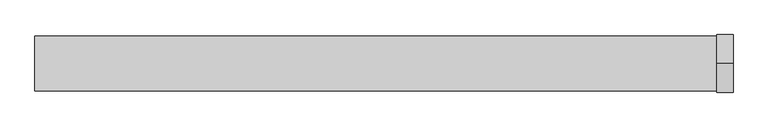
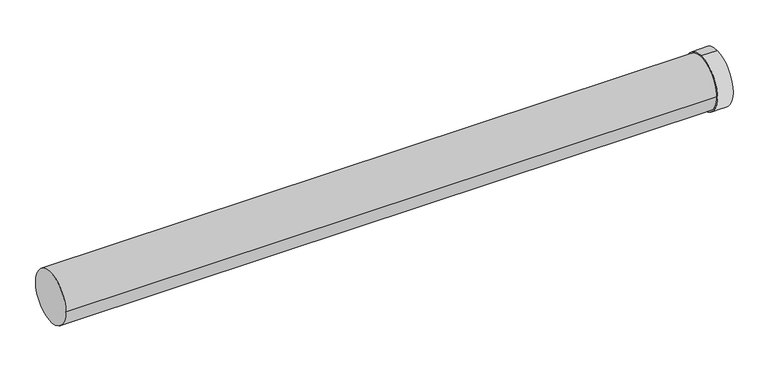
"""IFC4 building model written with IfcOpenShell, lengths in millimetres: duct fitting geometry, RSFen_DUF_UN_Twinline Extension_M&G : ø130-150-200."""

from ifc_helpers import new_model, si_unit, point, frame, origin, origin_2d, place, context, project, spatial, polyline, circle_curve, trimmed, segment, composite_curve, outline, extrude, source, transform, mapped, element, save
from ifc_brep_helpers import plane_surface, cylinder_surface, revolved_surface, advanced_brep


def duct_fitting_ad141df4(model_context):
    return source(origin(), model_context, "Body", "SolidModel", [
        advanced_brep(
        [(1909.9999881, 0.0, -79.0), (1909.9999881, 0.0, 79.0), (1909.9999881, 0.0, 75.5), (1909.9999881, 0.0, -75.5), (1864.9999881, 0.0, -79.0), (1864.9999881, 0.0, 79.0), (1869.9999881, 0.0, -75.5), (1869.9999881, 0.0, 75.5)],
        [
            (0, 1, circle_curve(frame((1909.9999881, 0.0, 0.0), z_axis=(1.0, 0.0, 0.0), x_axis=(0.0, 0.0, 1.0)), 79.0)),
            (1, 0, circle_curve(frame((1909.9999881, 0.0, 0.0), z_axis=(1.0, 0.0, 0.0), x_axis=(0.0, 0.0, 1.0)), 79.0)),
            (2, 3, circle_curve(frame((1909.9999881, 0.0, 0.0), z_axis=(-1.0, 0.0, 0.0), x_axis=(0.0, 0.0, 1.0)), 75.5)),
            (3, 2, circle_curve(frame((1909.9999881, 0.0, 0.0), z_axis=(-1.0, 0.0, 0.0), x_axis=(0.0, 0.0, 1.0)), 75.5)),
            (4, 5, circle_curve(frame((1864.9999881, 0.0, 0.0), z_axis=(-1.0, 0.0, 0.0), x_axis=(0.0, 0.0, 1.0)), 79.0)),
            (5, 4, circle_curve(frame((1864.9999881, 0.0, 0.0), z_axis=(-1.0, 0.0, 0.0), x_axis=(0.0, 0.0, 1.0)), 79.0)),
            (1, 5),
            (4, 0),
            (6, 7, circle_curve(frame((1869.9999881, 0.0, 0.0), z_axis=(1.0, 0.0, 0.0), x_axis=(0.0, 0.0, 1.0)), 75.5)),
            (7, 6, circle_curve(frame((1869.9999881, 0.0, 0.0), z_axis=(1.0, 0.0, 0.0), x_axis=(0.0, 0.0, 1.0)), 75.5)),
            (7, 2),
            (3, 6),
        ],
        [
            plane_surface(frame((1909.9999881, 0.0, 79.0), z_axis=(1.0, 0.0, 0.0), x_axis=(0.0, 1.0, 0.0))),
            plane_surface(frame((1864.9999881, 0.0, 79.0), z_axis=(-1.0, 0.0, 0.0), x_axis=(0.0, -1.0, 0.0))),
            cylinder_surface(frame((1864.9999881, 0.0, 0.0), z_axis=(1.0, 0.0, 0.0), x_axis=(0.0, 0.0, 1.0)), 79.0),
            plane_surface(frame((1869.9999881, 0.0, 75.5), z_axis=(1.0, 0.0, 0.0), x_axis=(0.0, -1.0, 0.0))),
            revolved_surface(polyline([(1909.9999881, 0.0, 75.5), (1869.9999881, 0.0, 75.5)]), (1869.9999881, 0.0, 0.0), (1.0, 0.0, 0.0)),
        ],
        [
            (0, [[1, 2], [3, 4]]),
            (1, [[5, 6]]),
            (2, [[7, -5, 8, -2]]),
            (2, [[-8, -6, -7, -1]]),
            (3, [[9, 10]]),
            (4, [[11, -4, 12, -10]]),
            (4, [[-12, -3, -11, -9]]),
        ],
    ),
        extrude(outline(composite_curve([segment(trimmed(circle_curve(origin_2d(), 75.0), [point((-75.0, 0.0))], [point((75.0, 0.0))], False, "CARTESIAN"), True, "CONTINUOUS"), segment(trimmed(circle_curve(origin_2d(), 75.0), [point((75.0, 0.0))], [point((-75.0, 0.0))], False, "CARTESIAN"), True, "CONTINUOUS")], self_intersect=False)), frame((-2.39e-05, 0.0, 0.0), z_axis=(1.0, 0.0, 0.0), x_axis=(0.0, 1.0, 0.0)), (0.0, 0.0, 1.0), 1869.9999881),
    ])


if __name__ == "__main__":
    model = new_model("IFC4")
    model_context = context("Model", 3, world=origin())
    ifc_project = project(units=[si_unit("LENGTHUNIT", "METRE", prefix="MILLI")], contexts=[model_context])
    site = spatial("IfcSite", under=ifc_project)
    building = spatial("IfcBuilding", under=site)
    placement = place(None, origin())
    duct_fitting_shape = duct_fitting_ad141df4(model_context)
    element("IfcDuctFitting", 1, ObjectType="RSFen_DUF_UN_Twinline Extension_M&G : ø130-150-200", at=placement, inside=building, context=model_context, shape_type="MappedRepresentation", body=[
        mapped(duct_fitting_shape, transform((0.0, 0.0, 0.0), x_axis=(1.0, 0.0, 0.0), y_axis=(0.0, 1.0, 0.0), z_axis=(0.0, 0.0, 1.0))),
    ])
    save(model, "model.ifc")
